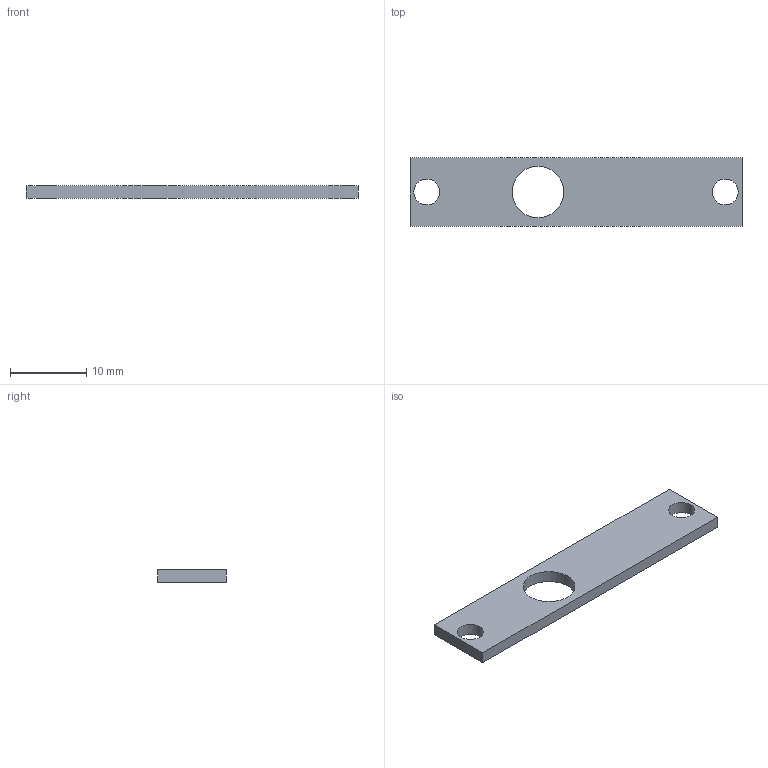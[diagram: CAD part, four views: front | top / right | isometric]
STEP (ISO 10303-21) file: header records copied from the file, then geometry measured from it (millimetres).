
FILE_DESCRIPTION(('FreeCAD Model'),'2;1');
FILE_NAME('Open CASCADE Shape Model','2026-11-20T08:25:38',('FreeCAD'),( 'FreeCAD'),'Open CASCADE STEP processor 7.8','FreeCAD','Unknown');
FILE_SCHEMA(('AUTOMOTIVE_DESIGN { 1 0 10303 214 1 1 1 1 }'));
Length unit declared in the file: millimetre
Products named in the file (1): Open CASCADE STEP translator 7.8 47
Bounding box: 43.6 x 9 x 1.6 mm (x, y, z)
Volume: 540.7 mm3; surface area: 912.5 mm2
Topology: 1 solids, 1 shells, 9 faces, 21 edges, 14 vertices
Faces by surface type: plane 6, cylinder 3
Full cylindrical faces by diameter (mm): 3.4 x2, 6.8 x1
Entity records: 283 total; most frequent: DIRECTION 47, CARTESIAN_POINT 45, ORIENTED_EDGE 42, EDGE_CURVE 21, AXIS2_PLACEMENT_3D 16, FACE_BOUND 15, EDGE_LOOP 15, LINE 15
